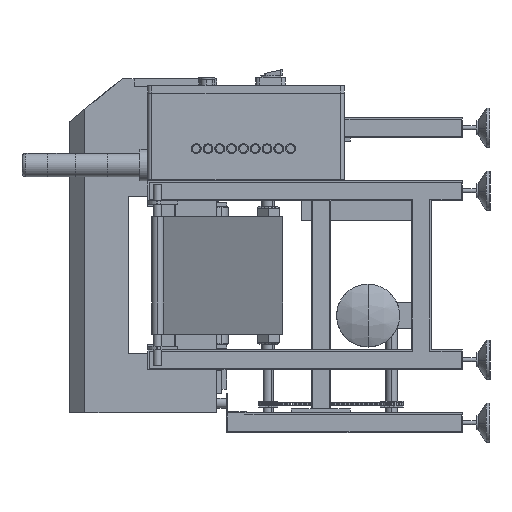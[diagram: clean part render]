
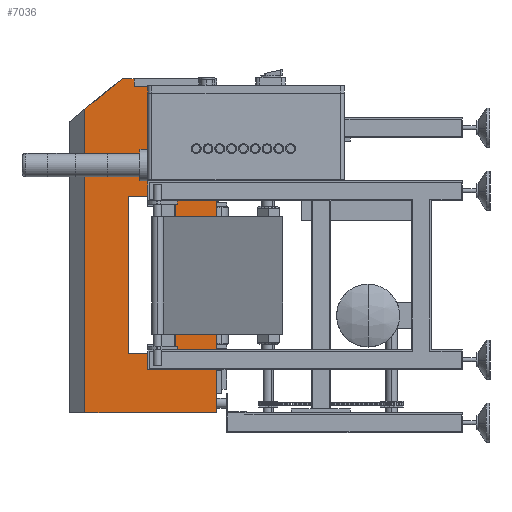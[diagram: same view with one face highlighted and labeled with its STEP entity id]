
A CAD part, left-side view. The second image highlights one B-rep face of the part: STEP entity #7036.
In plain terms, the highlighted planar face has unit normal (-1, 0, 0).
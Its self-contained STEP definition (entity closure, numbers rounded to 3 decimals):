
#3138=PLANE('',#41188);
#3914=FACE_BOUND('',#11473,.T.);
#3915=FACE_BOUND('',#11474,.T.);
#7036=ADVANCED_FACE('',(#3914,#3915),#3138,.T.);
#11473=EDGE_LOOP('',(#26347,#26348,#26349,#26350));
#11474=EDGE_LOOP('',(#26351,#26352,#26353,#26354,#26355,#26356,#26357));
#13944=LINE('',#65407,#17647);
#13947=LINE('',#65417,#17650);
#13948=LINE('',#65420,#17651);
#13949=LINE('',#65422,#17652);
#13950=LINE('',#65424,#17653);
#13951=LINE('',#65425,#17654);
#13952=LINE('',#65428,#17655);
#13953=LINE('',#65430,#17656);
#13954=LINE('',#65431,#17657);
#13955=LINE('',#65433,#17658);
#13956=LINE('',#65435,#17659);
#17647=VECTOR('',#47400,1.);
#17650=VECTOR('',#47413,1.);
#17651=VECTOR('',#47414,1.);
#17652=VECTOR('',#47415,1.);
#17653=VECTOR('',#47416,1.);
#17654=VECTOR('',#47417,1.);
#17655=VECTOR('',#47418,1.);
#17656=VECTOR('',#47419,1.);
#17657=VECTOR('',#47420,1.);
#17658=VECTOR('',#47421,1.);
#17659=VECTOR('',#47422,1.);
#26347=ORIENTED_EDGE('',*,*,#36932,.T.);
#26348=ORIENTED_EDGE('',*,*,#36933,.T.);
#26349=ORIENTED_EDGE('',*,*,#36934,.T.);
#26350=ORIENTED_EDGE('',*,*,#36935,.T.);
#26351=ORIENTED_EDGE('',*,*,#36936,.T.);
#26352=ORIENTED_EDGE('',*,*,#36937,.F.);
#26353=ORIENTED_EDGE('',*,*,#36938,.F.);
#26354=ORIENTED_EDGE('',*,*,#36925,.F.);
#26355=ORIENTED_EDGE('',*,*,#36939,.T.);
#26356=ORIENTED_EDGE('',*,*,#36940,.T.);
#26357=ORIENTED_EDGE('',*,*,#36941,.F.);
#32245=VERTEX_POINT('',#65405);
#32247=VERTEX_POINT('',#65408);
#32249=VERTEX_POINT('',#65418);
#32250=VERTEX_POINT('',#65419);
#32251=VERTEX_POINT('',#65421);
#32252=VERTEX_POINT('',#65423);
#32253=VERTEX_POINT('',#65426);
#32254=VERTEX_POINT('',#65427);
#32255=VERTEX_POINT('',#65429);
#32256=VERTEX_POINT('',#65432);
#32257=VERTEX_POINT('',#65434);
#36925=EDGE_CURVE('',#32245,#32247,#13944,.T.);
#36932=EDGE_CURVE('',#32249,#32250,#13947,.T.);
#36933=EDGE_CURVE('',#32250,#32251,#13948,.T.);
#36934=EDGE_CURVE('',#32251,#32252,#13949,.T.);
#36935=EDGE_CURVE('',#32252,#32249,#13950,.T.);
#36936=EDGE_CURVE('',#32253,#32254,#13951,.T.);
#36937=EDGE_CURVE('',#32255,#32254,#13952,.T.);
#36938=EDGE_CURVE('',#32247,#32255,#13953,.T.);
#36939=EDGE_CURVE('',#32245,#32256,#13954,.T.);
#36940=EDGE_CURVE('',#32256,#32257,#13955,.T.);
#36941=EDGE_CURVE('',#32253,#32257,#13956,.T.);
#41188=AXIS2_PLACEMENT_3D('',#65436,#47423,#47424);
#47400=DIRECTION('',(0.,0.,-1.));
#47413=DIRECTION('',(0.,-1.,0.));
#47414=DIRECTION('',(0.,0.,-1.));
#47415=DIRECTION('',(0.,1.,0.));
#47416=DIRECTION('',(0.,0.,1.));
#47417=DIRECTION('',(0.,0.775,-0.632));
#47418=DIRECTION('',(0.,0.,1.));
#47419=DIRECTION('',(0.,1.,0.));
#47420=DIRECTION('',(0.,1.,0.));
#47421=DIRECTION('',(0.,0.,1.));
#47422=DIRECTION('',(0.,-1.,0.));
#47423=DIRECTION('',(-1.,0.,0.));
#47424=DIRECTION('',(0.,0.,-1.));
#65405=CARTESIAN_POINT('',(0.,0.,-20.));
#65407=CARTESIAN_POINT('',(0.,0.,0.));
#65408=CARTESIAN_POINT('',(0.,0.,-850.));
#65417=CARTESIAN_POINT('',(0.,225.,-300.));
#65418=CARTESIAN_POINT('',(0.,225.,-300.));
#65419=CARTESIAN_POINT('',(0.,150.,-300.));
#65420=CARTESIAN_POINT('',(0.,150.,-300.));
#65421=CARTESIAN_POINT('',(0.,150.,-700.));
#65422=CARTESIAN_POINT('',(0.,225.,-700.));
#65423=CARTESIAN_POINT('',(0.,225.,-700.));
#65424=CARTESIAN_POINT('',(0.,225.,-300.));
#65425=CARTESIAN_POINT('',(0.,240.,0.));
#65426=CARTESIAN_POINT('',(0.,240.,0.));
#65427=CARTESIAN_POINT('',(0.,335.,-77.407));
#65428=CARTESIAN_POINT('',(0.,335.,-850.));
#65429=CARTESIAN_POINT('',(0.,335.,-850.));
#65430=CARTESIAN_POINT('',(0.,0.,-850.));
#65431=CARTESIAN_POINT('',(0.,0.,-20.));
#65432=CARTESIAN_POINT('',(0.,210.,-20.));
#65433=CARTESIAN_POINT('',(0.,210.,0.));
#65434=CARTESIAN_POINT('',(0.,210.,0.));
#65435=CARTESIAN_POINT('',(0.,0.,0.));
#65436=CARTESIAN_POINT('',(0.,0.,0.));
